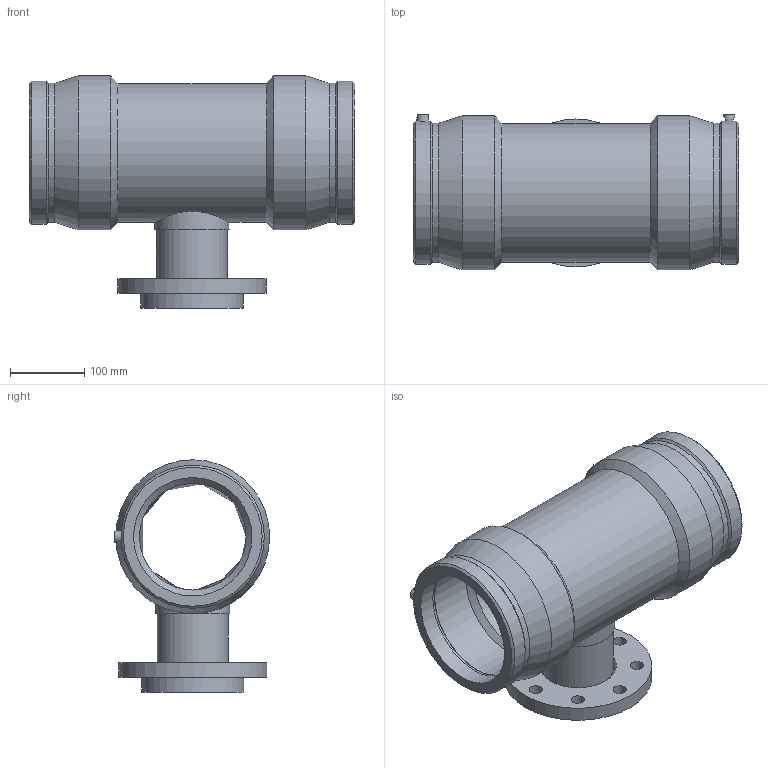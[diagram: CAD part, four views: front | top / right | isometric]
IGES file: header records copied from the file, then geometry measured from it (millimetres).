
Global section: file name: 499404160080.ipt; native system: Autodesk Inventor 2015; preprocessor: unknown; author: KIM; date: 20171106.094452; units: millimetre
Bounding box: 440 x 210 x 314 mm (x, y, z)
Volume: 5902227.5 mm3; surface area: 646503.3 mm2
Topology: 1 solids, 2 shells, 60 faces, 136 edges, 90 vertices
Faces by surface type: revolution 21, plane 14, cylinder 13, cone 11, bspline 1
Full cylindrical faces by diameter (mm): 4 x2, 96 x1, 100 x1, 138 x1, 187.2 x1, 187.637 x2, 193.44 x2, 200 x1, 208 x2
